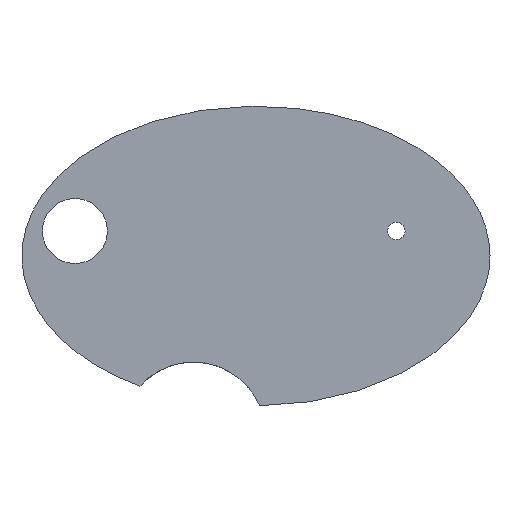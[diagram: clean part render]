
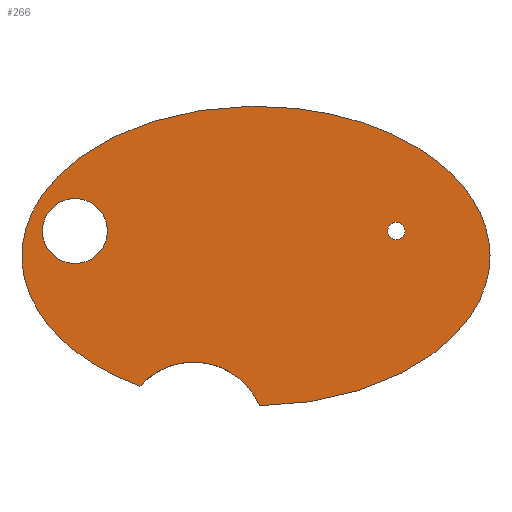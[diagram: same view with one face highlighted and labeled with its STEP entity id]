
A CAD part, top view. The second image highlights one B-rep face of the part: STEP entity #266.
In plain terms, the highlighted planar face has unit normal (0, 0, 1).
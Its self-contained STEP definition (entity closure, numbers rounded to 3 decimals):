
#39 = EDGE_CURVE('',#40,#42,#44,.T.);
#40 = VERTEX_POINT('',#41);
#41 = CARTESIAN_POINT('',(75.,0.,3.2));
#42 = VERTEX_POINT('',#43);
#43 = CARTESIAN_POINT('',(-37.166,-41.692,3.2));
#44 = SURFACE_CURVE('',#45,(#50,#101),.PCURVE_S1.);
#45 = ELLIPSE('',#46,75.,48.);
#46 = AXIS2_PLACEMENT_3D('',#47,#48,#49);
#47 = CARTESIAN_POINT('',(0.,0.,3.2));
#48 = DIRECTION('',(0.,0.,1.));
#49 = DIRECTION('',(1.,0.,-0.));
#50 = PCURVE('',#51,#96);
#51 = B_SPLINE_SURFACE_WITH_KNOTS('',11,1,(
    (#52,#53)
    ,(#54,#55)
    ,(#56,#57)
    ,(#58,#59)
    ,(#60,#61)
    ,(#62,#63)
    ,(#64,#65)
    ,(#66,#67)
    ,(#68,#69)
    ,(#70,#71)
    ,(#72,#73)
    ,(#74,#75)
    ,(#76,#77)
    ,(#78,#79)
    ,(#80,#81)
    ,(#82,#83)
    ,(#84,#85)
    ,(#86,#87)
    ,(#88,#89)
    ,(#90,#91)
    ,(#92,#93)
    ,(#94,#95
    )),.UNSPECIFIED.,.T.,.F.,.F.,(1,11,10,11,1),(2,2),(-3.142,0.
    ,3.142,6.283,9.425),(0.,1.),.UNSPECIFIED.);
#52 = CARTESIAN_POINT('',(72.5,0.,0.));
#53 = CARTESIAN_POINT('',(75.,0.,3.2));
#54 = CARTESIAN_POINT('',(72.5,12.995,0.));
#55 = CARTESIAN_POINT('',(75.,13.709,3.2));
#56 = CARTESIAN_POINT('',(65.995,25.99,0.));
#57 = CARTESIAN_POINT('',(68.271,27.418,3.2));
#58 = CARTESIAN_POINT('',(52.985,37.559,0.));
#59 = CARTESIAN_POINT('',(54.812,39.623,3.2
    ));
#60 = CARTESIAN_POINT('',(34.362,46.279,0.));
#61 = CARTESIAN_POINT('',(35.547,48.822,3.2
    ));
#62 = CARTESIAN_POINT('',(11.909,50.975,0.));
#63 = CARTESIAN_POINT('',(12.319,53.776,3.2
    ));
#64 = CARTESIAN_POINT('',(-11.909,50.975,0.));
#65 = CARTESIAN_POINT('',(-12.319,53.776,3.2));
#66 = CARTESIAN_POINT('',(-34.362,46.279,0.));
#67 = CARTESIAN_POINT('',(-35.547,48.822,3.2));
#68 = CARTESIAN_POINT('',(-52.985,37.559,0.));
#69 = CARTESIAN_POINT('',(-54.812,39.623,3.2));
#70 = CARTESIAN_POINT('',(-65.995,25.99,0.));
#71 = CARTESIAN_POINT('',(-68.271,27.418,3.2));
#72 = CARTESIAN_POINT('',(-72.5,12.995,0.));
#73 = CARTESIAN_POINT('',(-75.,13.709,3.2));
#74 = CARTESIAN_POINT('',(-72.5,-12.995,0.));
#75 = CARTESIAN_POINT('',(-75.,-13.709,3.2));
#76 = CARTESIAN_POINT('',(-65.995,-25.99,0.));
#77 = CARTESIAN_POINT('',(-68.271,-27.418,3.2));
#78 = CARTESIAN_POINT('',(-52.985,-37.559,0.));
#79 = CARTESIAN_POINT('',(-54.812,-39.623,3.2
    ));
#80 = CARTESIAN_POINT('',(-34.362,-46.279,0.));
#81 = CARTESIAN_POINT('',(-35.547,-48.822,3.2
    ));
#82 = CARTESIAN_POINT('',(-11.909,-50.975,0.));
#83 = CARTESIAN_POINT('',(-12.319,-53.776,3.2
    ));
#84 = CARTESIAN_POINT('',(11.909,-50.975,0.));
#85 = CARTESIAN_POINT('',(12.319,-53.776,3.2)
  );
#86 = CARTESIAN_POINT('',(34.362,-46.279,0.));
#87 = CARTESIAN_POINT('',(35.547,-48.822,3.2
    ));
#88 = CARTESIAN_POINT('',(52.985,-37.559,0.));
#89 = CARTESIAN_POINT('',(54.812,-39.623,3.2));
#90 = CARTESIAN_POINT('',(65.995,-25.99,0.));
#91 = CARTESIAN_POINT('',(68.271,-27.418,3.2));
#92 = CARTESIAN_POINT('',(72.5,-12.995,0.));
#93 = CARTESIAN_POINT('',(75.,-13.709,3.2));
#94 = CARTESIAN_POINT('',(72.5,0.,0.));
#95 = CARTESIAN_POINT('',(75.,0.,3.2));
#96 = DEFINITIONAL_REPRESENTATION('',(#97),#100);
#97 = B_SPLINE_CURVE_WITH_KNOTS('',1,(#98,#99),.UNSPECIFIED.,.F.,.F.,(2,
    2),(0.,4.194),.PIECEWISE_BEZIER_KNOTS.);
#98 = CARTESIAN_POINT('',(6.283,1.));
#99 = CARTESIAN_POINT('',(10.477,1.));
#100 = ( GEOMETRIC_REPRESENTATION_CONTEXT(2) 
PARAMETRIC_REPRESENTATION_CONTEXT() REPRESENTATION_CONTEXT('2D SPACE',''
  ) );
#101 = PCURVE('',#102,#107);
#102 = PLANE('',#103);
#103 = AXIS2_PLACEMENT_3D('',#104,#105,#106);
#104 = CARTESIAN_POINT('',(0.,0.,3.2));
#105 = DIRECTION('',(0.,0.,1.));
#106 = DIRECTION('',(1.,0.,-0.));
#107 = DEFINITIONAL_REPRESENTATION('',(#108),#112);
#108 = ELLIPSE('',#109,75.,48.);
#109 = AXIS2_PLACEMENT_2D('',#110,#111);
#110 = CARTESIAN_POINT('',(0.,0.));
#111 = DIRECTION('',(1.,0.));
#112 = ( GEOMETRIC_REPRESENTATION_CONTEXT(2) 
PARAMETRIC_REPRESENTATION_CONTEXT() REPRESENTATION_CONTEXT('2D SPACE',''
  ) );
#114 = EDGE_CURVE('',#115,#40,#117,.T.);
#115 = VERTEX_POINT('',#116);
#116 = CARTESIAN_POINT('',(1.164,-47.994,3.2));
#117 = SURFACE_CURVE('',#118,(#123,#129),.PCURVE_S1.);
#118 = ELLIPSE('',#119,75.,48.);
#119 = AXIS2_PLACEMENT_3D('',#120,#121,#122);
#120 = CARTESIAN_POINT('',(0.,0.,3.2));
#121 = DIRECTION('',(0.,0.,1.));
#122 = DIRECTION('',(1.,0.,-0.));
#123 = PCURVE('',#51,#124);
#124 = DEFINITIONAL_REPRESENTATION('',(#125),#128);
#125 = B_SPLINE_CURVE_WITH_KNOTS('',1,(#126,#127),.UNSPECIFIED.,.F.,.F.,
  (2,2),(4.728,6.283),.PIECEWISE_BEZIER_KNOTS.);
#126 = CARTESIAN_POINT('',(4.728,1.));
#127 = CARTESIAN_POINT('',(6.283,1.));
#128 = ( GEOMETRIC_REPRESENTATION_CONTEXT(2) 
PARAMETRIC_REPRESENTATION_CONTEXT() REPRESENTATION_CONTEXT('2D SPACE',''
  ) );
#129 = PCURVE('',#102,#130);
#130 = DEFINITIONAL_REPRESENTATION('',(#131),#135);
#131 = ELLIPSE('',#132,75.,48.);
#132 = AXIS2_PLACEMENT_2D('',#133,#134);
#133 = CARTESIAN_POINT('',(0.,0.));
#134 = DIRECTION('',(1.,0.));
#135 = ( GEOMETRIC_REPRESENTATION_CONTEXT(2) 
PARAMETRIC_REPRESENTATION_CONTEXT() REPRESENTATION_CONTEXT('2D SPACE',''
  ) );
#163 = CYLINDRICAL_SURFACE('',#164,23.);
#164 = AXIS2_PLACEMENT_3D('',#165,#166,#167);
#165 = CARTESIAN_POINT('',(-20.,-57.,-1.));
#166 = DIRECTION('',(0.,0.,1.));
#167 = DIRECTION('',(1.,0.,-0.));
#266 = ADVANCED_FACE('',(#267,#293,#324),#102,.T.);
#267 = FACE_BOUND('',#268,.T.);
#268 = EDGE_LOOP('',(#269,#270,#271));
#269 = ORIENTED_EDGE('',*,*,#114,.T.);
#270 = ORIENTED_EDGE('',*,*,#39,.T.);
#271 = ORIENTED_EDGE('',*,*,#272,.F.);
#272 = EDGE_CURVE('',#115,#42,#273,.T.);
#273 = SURFACE_CURVE('',#274,(#279,#286),.PCURVE_S1.);
#274 = CIRCLE('',#275,23.);
#275 = AXIS2_PLACEMENT_3D('',#276,#277,#278);
#276 = CARTESIAN_POINT('',(-20.,-57.,3.2));
#277 = DIRECTION('',(0.,0.,1.));
#278 = DIRECTION('',(1.,0.,-0.));
#279 = PCURVE('',#102,#280);
#280 = DEFINITIONAL_REPRESENTATION('',(#281),#285);
#281 = CIRCLE('',#282,23.);
#282 = AXIS2_PLACEMENT_2D('',#283,#284);
#283 = CARTESIAN_POINT('',(-20.,-57.));
#284 = DIRECTION('',(1.,0.));
#285 = ( GEOMETRIC_REPRESENTATION_CONTEXT(2) 
PARAMETRIC_REPRESENTATION_CONTEXT() REPRESENTATION_CONTEXT('2D SPACE',''
  ) );
#286 = PCURVE('',#163,#287);
#287 = DEFINITIONAL_REPRESENTATION('',(#288),#292);
#288 = LINE('',#289,#290);
#289 = CARTESIAN_POINT('',(0.,4.2));
#290 = VECTOR('',#291,1.);
#291 = DIRECTION('',(1.,0.));
#292 = ( GEOMETRIC_REPRESENTATION_CONTEXT(2) 
PARAMETRIC_REPRESENTATION_CONTEXT() REPRESENTATION_CONTEXT('2D SPACE',''
  ) );
#293 = FACE_BOUND('',#294,.T.);
#294 = EDGE_LOOP('',(#295));
#295 = ORIENTED_EDGE('',*,*,#296,.F.);
#296 = EDGE_CURVE('',#297,#297,#299,.T.);
#297 = VERTEX_POINT('',#298);
#298 = CARTESIAN_POINT('',(-47.6,8.,3.2));
#299 = SURFACE_CURVE('',#300,(#305,#312),.PCURVE_S1.);
#300 = CIRCLE('',#301,10.4);
#301 = AXIS2_PLACEMENT_3D('',#302,#303,#304);
#302 = CARTESIAN_POINT('',(-58.,8.,3.2));
#303 = DIRECTION('',(0.,0.,1.));
#304 = DIRECTION('',(1.,0.,-0.));
#305 = PCURVE('',#102,#306);
#306 = DEFINITIONAL_REPRESENTATION('',(#307),#311);
#307 = CIRCLE('',#308,10.4);
#308 = AXIS2_PLACEMENT_2D('',#309,#310);
#309 = CARTESIAN_POINT('',(-58.,8.));
#310 = DIRECTION('',(1.,0.));
#311 = ( GEOMETRIC_REPRESENTATION_CONTEXT(2) 
PARAMETRIC_REPRESENTATION_CONTEXT() REPRESENTATION_CONTEXT('2D SPACE',''
  ) );
#312 = PCURVE('',#313,#318);
#313 = CYLINDRICAL_SURFACE('',#314,10.4);
#314 = AXIS2_PLACEMENT_3D('',#315,#316,#317);
#315 = CARTESIAN_POINT('',(-58.,8.,-1.));
#316 = DIRECTION('',(0.,0.,1.));
#317 = DIRECTION('',(1.,0.,-0.));
#318 = DEFINITIONAL_REPRESENTATION('',(#319),#323);
#319 = LINE('',#320,#321);
#320 = CARTESIAN_POINT('',(0.,4.2));
#321 = VECTOR('',#322,1.);
#322 = DIRECTION('',(1.,0.));
#323 = ( GEOMETRIC_REPRESENTATION_CONTEXT(2) 
PARAMETRIC_REPRESENTATION_CONTEXT() REPRESENTATION_CONTEXT('2D SPACE',''
  ) );
#324 = FACE_BOUND('',#325,.T.);
#325 = EDGE_LOOP('',(#326));
#326 = ORIENTED_EDGE('',*,*,#327,.F.);
#327 = EDGE_CURVE('',#328,#328,#330,.T.);
#328 = VERTEX_POINT('',#329);
#329 = CARTESIAN_POINT('',(47.8,8.,3.2));
#330 = SURFACE_CURVE('',#331,(#336,#343),.PCURVE_S1.);
#331 = CIRCLE('',#332,2.8);
#332 = AXIS2_PLACEMENT_3D('',#333,#334,#335);
#333 = CARTESIAN_POINT('',(45.,8.,3.2));
#334 = DIRECTION('',(0.,0.,1.));
#335 = DIRECTION('',(1.,0.,-0.));
#336 = PCURVE('',#102,#337);
#337 = DEFINITIONAL_REPRESENTATION('',(#338),#342);
#338 = CIRCLE('',#339,2.8);
#339 = AXIS2_PLACEMENT_2D('',#340,#341);
#340 = CARTESIAN_POINT('',(45.,8.));
#341 = DIRECTION('',(1.,0.));
#342 = ( GEOMETRIC_REPRESENTATION_CONTEXT(2) 
PARAMETRIC_REPRESENTATION_CONTEXT() REPRESENTATION_CONTEXT('2D SPACE',''
  ) );
#343 = PCURVE('',#344,#349);
#344 = CYLINDRICAL_SURFACE('',#345,2.8);
#345 = AXIS2_PLACEMENT_3D('',#346,#347,#348);
#346 = CARTESIAN_POINT('',(45.,8.,-1.));
#347 = DIRECTION('',(0.,0.,1.));
#348 = DIRECTION('',(1.,0.,-0.));
#349 = DEFINITIONAL_REPRESENTATION('',(#350),#354);
#350 = LINE('',#351,#352);
#351 = CARTESIAN_POINT('',(0.,4.2));
#352 = VECTOR('',#353,1.);
#353 = DIRECTION('',(1.,0.));
#354 = ( GEOMETRIC_REPRESENTATION_CONTEXT(2) 
PARAMETRIC_REPRESENTATION_CONTEXT() REPRESENTATION_CONTEXT('2D SPACE',''
  ) );
